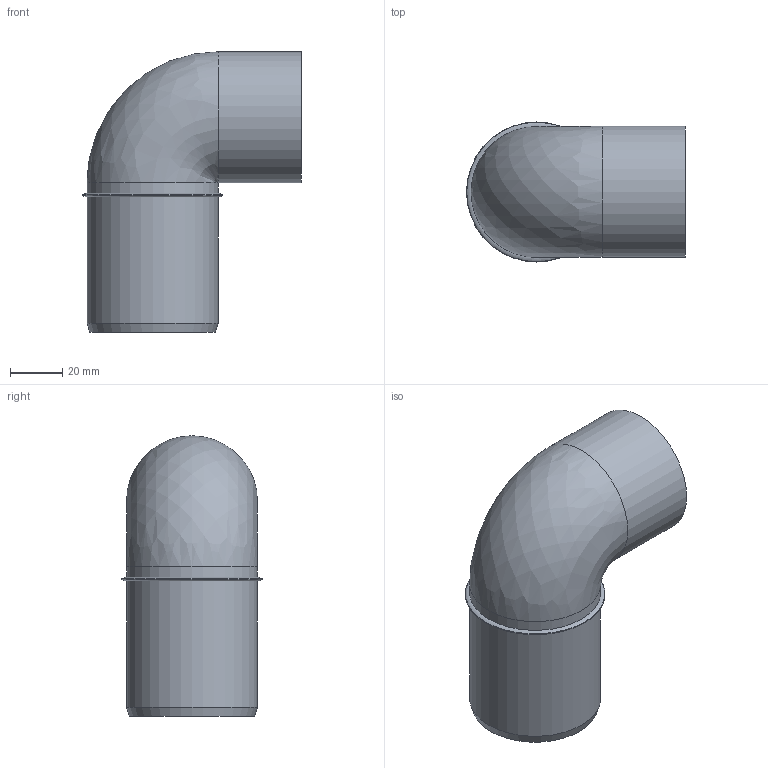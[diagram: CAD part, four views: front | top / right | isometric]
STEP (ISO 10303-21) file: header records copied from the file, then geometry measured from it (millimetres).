
FILE_DESCRIPTION(/* description */ (''),/* implementation_level */ '2;1');
FILE_NAME(/* name */ 'Z:\Geberit\Export\NewStep\390283.stp',/* time_stamp */ '2014-04-02T08:10:44+02:00',/* author */ ('ML'),/* organization */ (''),/* preprocessor_version */ 'ST-DEVELOPER v15.2',/* originating_system */ 'Autodesk Inventor 2014',/* authorisation */ '');
FILE_SCHEMA (('AUTOMOTIVE_DESIGN { 1 0 10303 214 3 1 1 }'));
Length unit declared in the file: millimetre
Products named in the file (2): 861474; 390283
Bounding box: 83.83 x 53.65 x 107.4 mm (x, y, z)
Volume: 39102.3 mm3; surface area: 39791.2 mm2
Topology: 1 solids, 1 shells, 13 faces, 27 edges, 14 vertices
Faces by surface type: cylinder 5, torus 4, plane 2, cone 1, bspline 1
Full cylindrical faces by diameter (mm): 46.15 x2, 50.15 x3
Entity records: 393 total; most frequent: CARTESIAN_POINT 121, DIRECTION 56, AXIS2_PLACEMENT_3D 28, ORIENTED_EDGE 26, EDGE_LOOP 25, FACE_BOUND 14, STYLED_ITEM 14, CIRCLE 13
